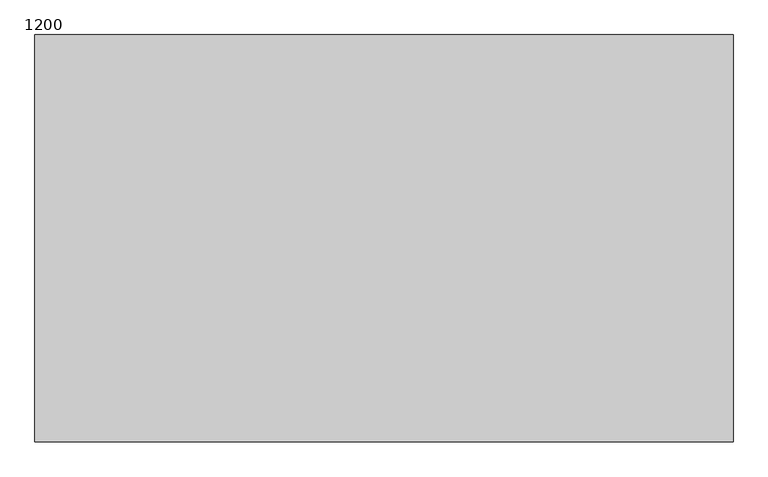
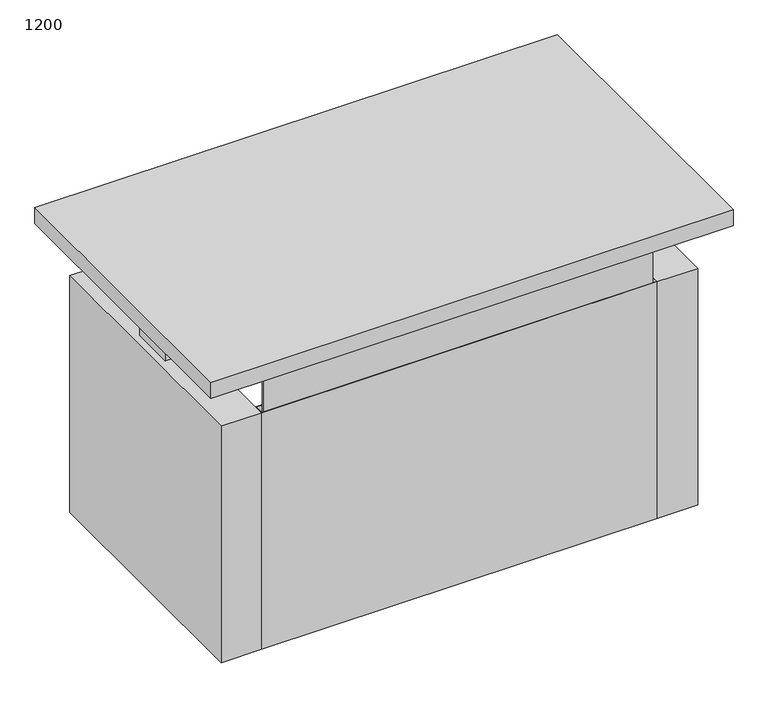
"""IFC4 building model written with IfcOpenShell, lengths in millimetres: furniture geometry, BK Library - Exlibris - Straight - Counter : 1200."""

import ifcopenshell
import ifcopenshell.guid

model = None  # the IFC model being written
_history = None  # IfcOwnerHistory: only IFC2X3 demands one
_inside = {}  # id of a spatial element -> (the spatial element, [elements in it])
_under = {}  # id of a project, library or spatial element -> (it, [spatial elements below it])
_declared = {}  # id of a project -> (the project, [libraries it declares])
_typed = {}  # id of a type object -> (the type object, [elements of that type])
_made_of = {}  # id of a material, layer set ... -> (it, [elements and type objects made of it])


def new_model(schema):
    """Start an empty IFC model of exactly this schema.

    Asked for "IFC4X3", IfcOpenShell would pick the latest addendum, in which some entities
    have other attributes; the version numbers below select the first issue.
    IFC2X3 requires an IfcOwnerHistory on every rooted entity: one is made here for all.
    """
    global model, _history
    if schema == "IFC4X3":
        model = ifcopenshell.file(schema_version=(4, 3, 0, 0))
    else:
        model = ifcopenshell.file(schema=schema)
    _inside.clear()
    _under.clear()
    _declared.clear()
    _typed.clear()
    _made_of.clear()
    _history = None
    if model.schema == "IFC2X3":
        org = make("IfcOrganization", Name="unknown")
        user = make(
            "IfcPersonAndOrganization",
            ThePerson=make("IfcPerson", FamilyName="unknown"),
            TheOrganization=org,
        )
        app = make(
            "IfcApplication",
            ApplicationDeveloper=org,
            Version="unknown",
            ApplicationFullName="unknown",
            ApplicationIdentifier="unknown",
        )
        _history = make(
            "IfcOwnerHistory",
            OwningUser=user,
            OwningApplication=app,
            ChangeAction="ADDED",
            CreationDate=0,
        )
    return model


def make(cls, **values):
    """One entity of the class cls with the attributes given. An attribute that is None is left unset."""
    return model.create_entity(
        cls, **{name: value for name, value in values.items() if value is not None}
    )


def rooted(cls, **values):
    """An entity with a GlobalId (a new one), such as an element, a storey or a relation."""
    return make(cls, GlobalId=ifcopenshell.guid.new(), OwnerHistory=_history, **values)


def si_unit(unit_type, name, prefix=None):
    """IfcSIUnit, for example si_unit("LENGTHUNIT", "METRE", prefix="MILLI")."""
    return make("IfcSIUnit", UnitType=unit_type, Prefix=prefix, Name=name)


def assignment(units):
    """IfcUnitAssignment: the units of a project."""
    return None if units is None else make("IfcUnitAssignment", Units=units)


def point(xyz):
    """IfcCartesianPoint."""
    return None if xyz is None else make("IfcCartesianPoint", Coordinates=xyz)


def direction(xyz):
    """IfcDirection."""
    return None if xyz is None else make("IfcDirection", DirectionRatios=xyz)


def frame(location, z_axis=None, x_axis=None):
    """IfcAxis2Placement3D, a coordinate frame: its origin and axes. An axis left out is left unset."""
    return make(
        "IfcAxis2Placement3D",
        Location=point(location),
        Axis=direction(z_axis),
        RefDirection=direction(x_axis),
    )


def origin():
    """The frame at (0, 0, 0) with its axes left unset."""
    return frame((0.0, 0.0, 0.0))


def origin_with_axes():
    """The frame at (0, 0, 0) with the z axis (0, 0, 1) and the x axis (1, 0, 0) written out."""
    return frame((0.0, 0.0, 0.0), z_axis=(0.0, 0.0, 1.0), x_axis=(1.0, 0.0, 0.0))


def place(relative_to, where):
    """IfcLocalPlacement: puts the frame where relative to a parent placement (None: the world)."""
    return make(
        "IfcLocalPlacement", PlacementRelTo=relative_to, RelativePlacement=where
    )


def context(
    kind, dimensions, precision=None, world=None, true_north=None, identifier=None
):
    """IfcGeometricRepresentationContext, for example the 3D "Model" context."""
    return make(
        "IfcGeometricRepresentationContext",
        ContextIdentifier=identifier,
        ContextType=kind,
        CoordinateSpaceDimension=dimensions,
        Precision=precision,
        WorldCoordinateSystem=world,
        TrueNorth=true_north,
    )


def project(units=None, contexts=None):
    """IfcProject with its units and contexts."""
    return rooted(
        "IfcProject",
        Name="project",
        RepresentationContexts=contexts,
        UnitsInContext=assignment(units),
    )


def spatial(cls, under=None, at=None, **own):
    """A site, building, storey or space (cls), placed at a placement, below another one or the project."""
    s = rooted(cls, ObjectPlacement=at, **own)
    if under is not None:
        _under.setdefault(under.id(), (under, []))[1].append(s)
    return s


def polyline(points):
    """IfcPolyline through the points."""
    return make("IfcPolyline", Points=[point(p) for p in points])


def outline(outer, holes=None, kind="AREA"):
    """IfcArbitraryClosedProfileDef: a profile drawn as a closed curve; with holes, ...WithVoids."""
    if holes is None:
        return make("IfcArbitraryClosedProfileDef", ProfileType=kind, OuterCurve=outer)
    return make(
        "IfcArbitraryProfileDefWithVoids",
        ProfileType=kind,
        OuterCurve=outer,
        InnerCurves=holes,
    )


def extrude(swept, where, along, depth):
    """IfcExtrudedAreaSolid: the profile swept, set in the frame where, extruded along a direction by depth."""
    return make(
        "IfcExtrudedAreaSolid",
        SweptArea=swept,
        Position=where,
        ExtrudedDirection=direction(along),
        Depth=depth,
    )


def shape(context_of_items, identifier, shape_type, items):
    """IfcShapeRepresentation: the items that make up one representation, for example the "Body"."""
    return make(
        "IfcShapeRepresentation",
        ContextOfItems=context_of_items,
        RepresentationIdentifier=identifier,
        RepresentationType=shape_type,
        Items=items,
    )


def source(mapping_origin, context_of_items, identifier, shape_type, items):
    """IfcRepresentationMap: a shape defined once, which mapped items show again and again."""
    return make(
        "IfcRepresentationMap",
        MappingOrigin=mapping_origin,
        MappedRepresentation=shape(context_of_items, identifier, shape_type, items),
    )


def transform(
    local_origin,
    x_axis=None,
    y_axis=None,
    z_axis=None,
    scale=None,
    scale2=None,
    scale3=None,
    uniform=True,
):
    """IfcCartesianTransformationOperator3D, or its non-uniform kind. x_axis, y_axis, z_axis: its Axis1, 2, 3."""
    if uniform:
        return make(
            "IfcCartesianTransformationOperator3D",
            Axis1=direction(x_axis),
            Axis2=direction(y_axis),
            LocalOrigin=point(local_origin),
            Scale=scale,
            Axis3=direction(z_axis),
        )
    return make(
        "IfcCartesianTransformationOperator3DnonUniform",
        Axis1=direction(x_axis),
        Axis2=direction(y_axis),
        LocalOrigin=point(local_origin),
        Scale=scale,
        Axis3=direction(z_axis),
        Scale2=scale2,
        Scale3=scale3,
    )


def mapped(mapping_source, mapping_target):
    """IfcMappedItem: shows the shape of a source again, moved by a transform."""
    return make(
        "IfcMappedItem", MappingSource=mapping_source, MappingTarget=mapping_target
    )


def made_of(thing, what):
    """Note that an element or type object is made of a material, layer set ...; save() writes the relation."""
    if what is not None:
        _made_of.setdefault(what.id(), (what, []))[1].append(thing)
    return thing


def element(
    cls,
    number,
    at=None,
    inside=None,
    cuts=None,
    type_object=None,
    material=None,
    context=None,
    identifier="Body",
    shape_type=None,
    held_by="IfcProductDefinitionShape",
    body=None,
    shapes=None,
    **own,
):
    """One element of the class cls, such as IfcWall. Its Tag is "e" and its number.

    at: its placement. inside: the storey or other place that contains it. cuts: it is an
    opening in that element (IfcRelVoidsElement). A single representation is given by context,
    identifier, shape_type and body (its items); several are given by shapes. held_by: the class
    of the entity that holds the representations. save() writes the other relations.
    """
    e = rooted(cls, Tag="e%d" % number, ObjectPlacement=at, **own)
    if body is not None:
        shapes = [shape(context, identifier, shape_type, body)]
    if shapes is not None:
        e.Representation = make(held_by, Representations=shapes)
    if inside is not None:
        _inside.setdefault(inside.id(), (inside, []))[1].append(e)
    if cuts is not None:
        rooted(
            "IfcRelVoidsElement", RelatingBuildingElement=cuts, RelatedOpeningElement=e
        )
    if type_object is not None:
        _typed.setdefault(type_object.id(), (type_object, []))[1].append(e)
    return made_of(e, material)


def aggregate(whole, parts):
    """IfcRelAggregates: a whole, such as a stair, and the parts it consists of."""
    return rooted("IfcRelAggregates", RelatingObject=whole, RelatedObjects=parts)


def save(model, path):
    """Write the relations noted so far, then the file.

    IfcRelAggregates (storeys below a building ...), IfcRelContainedInSpatialStructure (elements
    in a storey), IfcRelDefinesByType, IfcRelAssociatesMaterial and IfcRelDeclares: one each for
    every whole, place, type object, material and project.
    """
    for whole, parts in _under.values():
        aggregate(whole, parts)
    for where, things in _inside.values():
        rooted(
            "IfcRelContainedInSpatialStructure",
            RelatedElements=things,
            RelatingStructure=where,
        )
    for kind, things in _typed.values():
        rooted("IfcRelDefinesByType", RelatedObjects=things, RelatingType=kind)
    for what, things in _made_of.values():
        rooted("IfcRelAssociatesMaterial", RelatedObjects=things, RelatingMaterial=what)
    for by, libraries in _declared.values():
        rooted("IfcRelDeclares", RelatingContext=by, RelatedDefinitions=libraries)
    model.write(path)


def furniture_1200_2064294d(model_context):
    return source(origin(), model_context, "Body", "SweptSolid", [
        extrude(outline(polyline([(-437.75, 126.25), (-437.75, -123.75), (-564.75, -123.75), (-564.75, 126.25), (-437.75, 126.25)])), frame((0.0, 0.0, 687.0), z_axis=(0.0, 0.0, 1.0), x_axis=(1.0, 0.0, 0.0)), (0.0, 0.0, 1.0), 4.0),
        extrude(outline(polyline([(437.75, -123.75), (437.75, 126.25), (564.75, 126.25), (564.75, -123.75), (437.75, -123.75)])), frame((0.0, 0.0, 687.0), z_axis=(0.0, 0.0, 1.0), x_axis=(1.0, 0.0, 0.0)), (0.0, 0.0, 1.0), 4.0),
        extrude(outline(polyline([(418.7, -198.75), (418.7, -298.75), (-418.7, -298.75), (-418.7, -198.75), (418.7, -198.75)])), origin_with_axes(), (0.0, 0.0, 1.0), 22.0),
        extrude(outline(polyline([(418.7, -240.75), (418.7, -290.75), (-418.7, -290.75), (-418.7, -240.75), (418.7, -240.75)])), frame((0.0, 0.0, 139.0), z_axis=(0.0, 0.0, 1.0), x_axis=(1.0, 0.0, 0.0)), (0.0, 0.0, 1.0), 22.0),
        extrude(outline(polyline([(-600.0, -350.0), (-600.0, 350.0), (600.0, 350.0), (600.0, -350.0), (-600.0, -350.0)])), frame((0.0, 0.0, 691.0), z_axis=(0.0, 0.0, 1.0), x_axis=(1.0, 0.0, 0.0)), (0.0, 0.0, 1.0), 39.0),
        extrude(outline(polyline([(-547.5, 302.5), (-455.0, 302.5), (-455.0, -300.0), (-547.5, -300.0), (-547.5, 302.5)])), origin_with_axes(), (0.0, 0.0, 1.0), 575.0000153),
        extrude(outline(polyline([(547.5, -300.0), (455.0, -300.0), (455.0, 302.5), (547.5, 302.5), (547.5, -300.0)])), origin_with_axes(), (0.0, 0.0, 1.0), 575.0000153),
        extrude(outline(polyline([(-453.75, -277.95), (-453.75, -298.75), (453.75, -298.75), (453.75, -277.95), (438.7, -277.95), (438.7, -276.7), (455.0, -276.7), (455.0, -300.0), (-455.0, -300.0), (-455.0, -276.7), (-438.7, -276.7), (-438.7, -277.95), (-453.75, -277.95)])), origin_with_axes(), (0.0, 0.0, 1.0), 575.0000153),
        extrude(outline(polyline([(-447.5, -293.75), (-447.5, -290.75), (447.5, -290.75), (447.5, -293.75), (-447.5, -293.75)])), frame((0.0, 0.0, 139.0), z_axis=(0.0, 0.0, 1.0), x_axis=(1.0, 0.0, 0.0)), (0.0, 0.0, 1.0), 552.0),
        extrude(outline(polyline([(-471.25, 51.25), (-471.25, -48.75), (-531.25, -48.75), (-531.25, 51.25), (-471.25, 51.25)])), frame((0.0, 0.0, 575.0000153), z_axis=(0.0, 0.0, 1.0), x_axis=(1.0, 0.0, 0.0)), (0.0, 0.0, 1.0), 111.9999847),
        extrude(outline(polyline([(531.25, 51.25), (531.25, -48.75), (471.25, -48.75), (471.25, 51.25), (531.25, 51.25)])), frame((0.0, 0.0, 575.0000153), z_axis=(0.0, 0.0, 1.0), x_axis=(1.0, 0.0, 0.0)), (0.0, 0.0, 1.0), 111.9999847),
    ])


if __name__ == "__main__":
    model = new_model("IFC4")
    model_context = context("Model", 3, world=origin())
    ifc_project = project(units=[si_unit("LENGTHUNIT", "METRE", prefix="MILLI")], contexts=[model_context])
    site = spatial("IfcSite", under=ifc_project)
    building = spatial("IfcBuilding", under=site)
    placement = place(None, origin())
    furniture_1200_shape = furniture_1200_2064294d(model_context)
    element("IfcFurniture", 1, ObjectType="BK Library - Exlibris - Straight - Counter : 1200", at=placement, inside=building, context=model_context, shape_type="MappedRepresentation", body=[
        mapped(furniture_1200_shape, transform((0.0, 0.0, 0.0), x_axis=(1.0, 0.0, 0.0), y_axis=(0.0, 1.0, 0.0), z_axis=(0.0, 0.0, 1.0))),
    ])
    save(model, "model.ifc")
